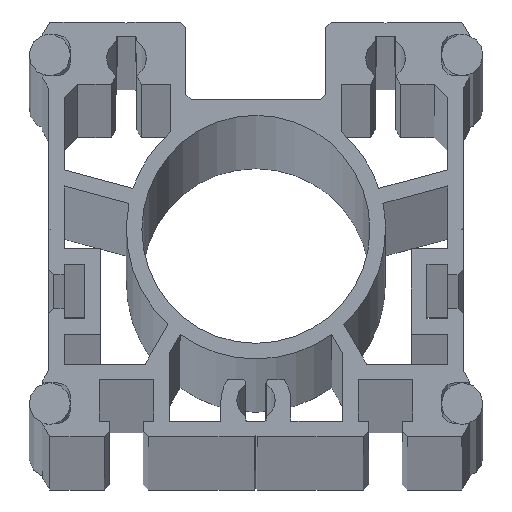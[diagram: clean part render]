
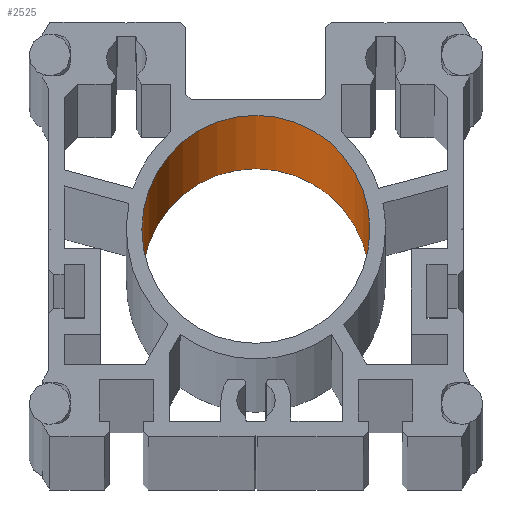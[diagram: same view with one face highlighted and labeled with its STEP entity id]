
A CAD part, top view. The second image highlights one B-rep face of the part: STEP entity #2525.
In plain terms, the highlighted cylindrical face has radius 22 mm (diameter 44 mm), a partial arc.
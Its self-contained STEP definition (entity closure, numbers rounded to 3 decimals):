
#2210 = EDGE_CURVE ( 'NONE', #3619, #3577, #5960, .T. ) ;
#2523 = EDGE_CURVE ( 'NONE', #3625, #3622, #6138, .T. ) ;
#2525 = ADVANCED_FACE ( 'NONE', ( #6133 ), #6132, .F. ) ;
#2526 = EDGE_LOOP ( 'NONE', ( #2527, #2528, #2529, #2625 ) ) ;
#2527 = ORIENTED_EDGE ( 'NONE', *, *, #3621, .F. ) ;
#2528 = ORIENTED_EDGE ( 'NONE', *, *, #2210, .F. ) ;
#2529 = ORIENTED_EDGE ( 'NONE', *, *, #3627, .T. ) ;
#2625 = ORIENTED_EDGE ( 'NONE', *, *, #2523, .T. ) ;
#3577 = VERTEX_POINT ( 'NONE', #7729 ) ;
#3619 = VERTEX_POINT ( 'NONE', #7655 ) ;
#3621 = EDGE_CURVE ( 'NONE', #3577, #3622, #7654, .T. ) ;
#3622 = VERTEX_POINT ( 'NONE', #7650 ) ;
#3625 = VERTEX_POINT ( 'NONE', #7644 ) ;
#3627 = EDGE_CURVE ( 'NONE', #3619, #3625, #7643, .T. ) ;
#5956 = DIRECTION ( 'NONE',  ( 1., 0., 0. ) ) ;
#5957 = DIRECTION ( 'NONE',  ( 0., 0., 1. ) ) ;
#5958 = CARTESIAN_POINT ( 'NONE',  ( 0., 40., -2949. ) ) ;
#5959 = AXIS2_PLACEMENT_3D ( 'NONE', #5958, #5957, #5956 ) ;
#5960 = CIRCLE ( 'NONE', #5959, 22. ) ;
#6127 = DIRECTION ( 'NONE',  ( 1., 0., 0. ) ) ;
#6128 = DIRECTION ( 'NONE',  ( 0., 0., 1. ) ) ;
#6129 = CARTESIAN_POINT ( 'NONE',  ( 0., 40., -2949. ) ) ;
#6130 = AXIS2_PLACEMENT_3D ( 'NONE', #6129, #6128, #6127 ) ;
#6132 = CYLINDRICAL_SURFACE ( 'NONE', #6130, 22. ) ;
#6133 = FACE_OUTER_BOUND ( 'NONE', #2526, .T. ) ;
#6134 = DIRECTION ( 'NONE',  ( 1., 0., 0. ) ) ;
#6135 = DIRECTION ( 'NONE',  ( 0., 0., 1. ) ) ;
#6136 = CARTESIAN_POINT ( 'NONE',  ( 0., 40., 2949. ) ) ;
#6137 = AXIS2_PLACEMENT_3D ( 'NONE', #6136, #6135, #6134 ) ;
#6138 = CIRCLE ( 'NONE', #6137, 22. ) ;
#7640 = DIRECTION ( 'NONE',  ( 0., 0., 1. ) ) ;
#7641 = VECTOR ( 'NONE', #7640, 1000. ) ;
#7642 = CARTESIAN_POINT ( 'NONE',  ( 22., 40., -2949. ) ) ;
#7643 = LINE ( 'NONE', #7642, #7641 ) ;
#7644 = CARTESIAN_POINT ( 'NONE',  ( 22., 40., 2949. ) ) ;
#7650 = CARTESIAN_POINT ( 'NONE',  ( -22., 40., 2949. ) ) ;
#7651 = DIRECTION ( 'NONE',  ( 0., 0., 1. ) ) ;
#7652 = VECTOR ( 'NONE', #7651, 1000. ) ;
#7653 = CARTESIAN_POINT ( 'NONE',  ( -22., 40., -2949. ) ) ;
#7654 = LINE ( 'NONE', #7653, #7652 ) ;
#7655 = CARTESIAN_POINT ( 'NONE',  ( 22., 40., -2949. ) ) ;
#7729 = CARTESIAN_POINT ( 'NONE',  ( -22., 40., -2949. ) ) ;
